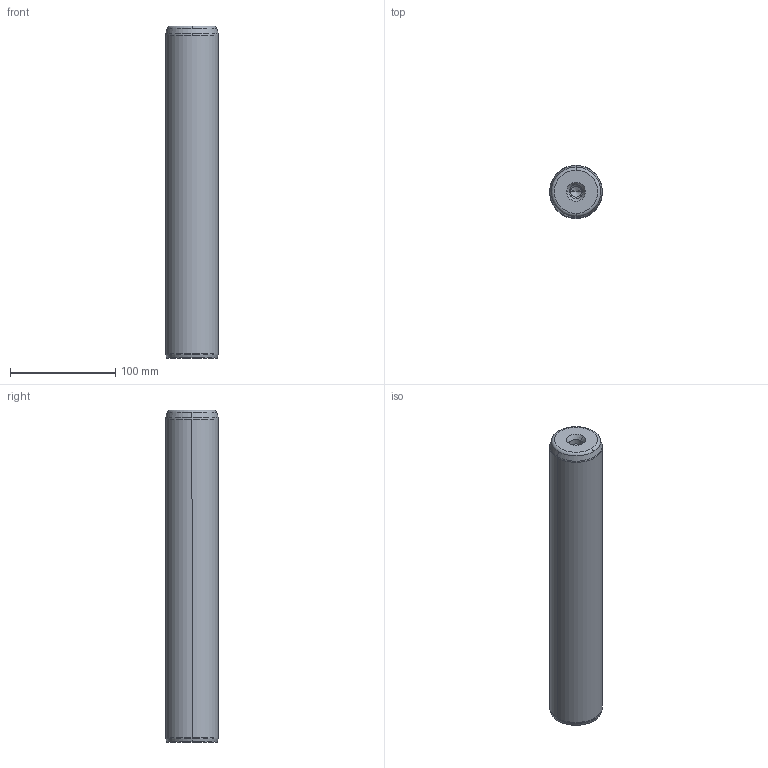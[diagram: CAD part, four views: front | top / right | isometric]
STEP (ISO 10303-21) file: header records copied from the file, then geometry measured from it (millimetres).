
FILE_DESCRIPTION((''),'2;1');
FILE_NAME('P10_050_315.stp','2008-12-23T16:14:23',(''),(''),'Mechanical Desktop 2009','Mechanical Desktop 2009',', , ');
FILE_SCHEMA(('CONFIG_CONTROL_DESIGN'));
Length unit declared in the file: millimetre
Products named in the file (5): Product; ProductAA; blmdl1; ProductA; blmdl1A
Assembly tree (2 placements, depth 3):
  Product
    ProductAA
      blmdl1
  ProductA
  blmdl1A
Bounding box: 50 x 50 x 315 mm (x, y, z)
Volume: 612863.7 mm3; surface area: 54043.2 mm2
Topology: 1 solids, 1 shells, 26 faces, 66 edges, 41 vertices
Faces by surface type: cone 10, torus 8, cylinder 6, plane 2
Entity records: 1012 total; most frequent: DIRECTION 170, CARTESIAN_POINT 134, ORIENTED_EDGE 128, AXIS2_PLACEMENT_3D 77, EDGE_CURVE 64, CIRCLE 48, VERTEX_POINT 41, EDGE_LOOP 27
